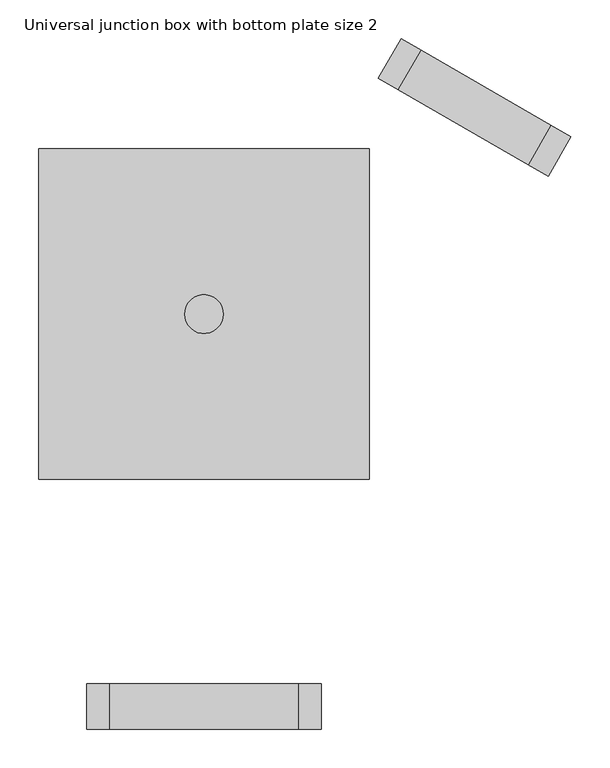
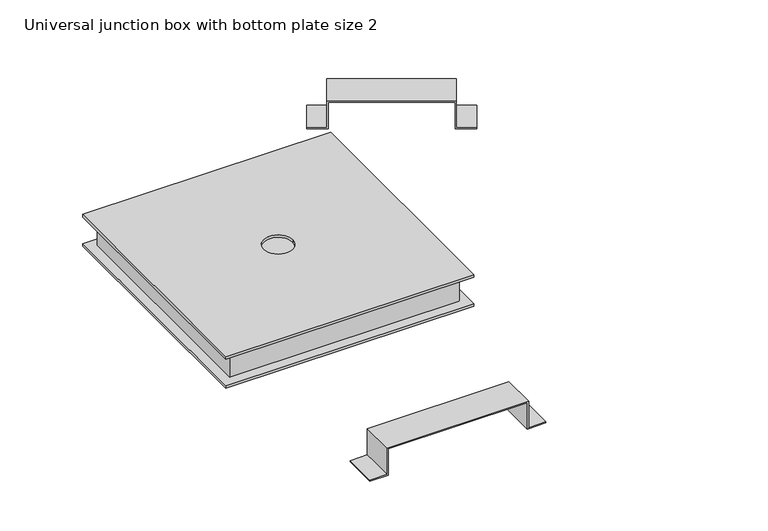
"""IFC4 building model written with IfcOpenShell, lengths in millimetres: cable carrier fitting geometry, Electrical-Installations_Hager_Universal-Junction-Box-With-Bottom-Plate-Size-2-Angled : Universal junction box with bottom plate size 2."""

import ifcopenshell
import ifcopenshell.guid

model = None  # the IFC model being written
_history = None  # IfcOwnerHistory: only IFC2X3 demands one
_inside = {}  # id of a spatial element -> (the spatial element, [elements in it])
_under = {}  # id of a project, library or spatial element -> (it, [spatial elements below it])
_declared = {}  # id of a project -> (the project, [libraries it declares])
_typed = {}  # id of a type object -> (the type object, [elements of that type])
_made_of = {}  # id of a material, layer set ... -> (it, [elements and type objects made of it])


def new_model(schema):
    """Start an empty IFC model of exactly this schema.

    Asked for "IFC4X3", IfcOpenShell would pick the latest addendum, in which some entities
    have other attributes; the version numbers below select the first issue.
    IFC2X3 requires an IfcOwnerHistory on every rooted entity: one is made here for all.
    """
    global model, _history
    if schema == "IFC4X3":
        model = ifcopenshell.file(schema_version=(4, 3, 0, 0))
    else:
        model = ifcopenshell.file(schema=schema)
    _inside.clear()
    _under.clear()
    _declared.clear()
    _typed.clear()
    _made_of.clear()
    _history = None
    if model.schema == "IFC2X3":
        org = make("IfcOrganization", Name="unknown")
        user = make(
            "IfcPersonAndOrganization",
            ThePerson=make("IfcPerson", FamilyName="unknown"),
            TheOrganization=org,
        )
        app = make(
            "IfcApplication",
            ApplicationDeveloper=org,
            Version="unknown",
            ApplicationFullName="unknown",
            ApplicationIdentifier="unknown",
        )
        _history = make(
            "IfcOwnerHistory",
            OwningUser=user,
            OwningApplication=app,
            ChangeAction="ADDED",
            CreationDate=0,
        )
    return model


def make(cls, **values):
    """One entity of the class cls with the attributes given. An attribute that is None is left unset."""
    return model.create_entity(
        cls, **{name: value for name, value in values.items() if value is not None}
    )


def rooted(cls, **values):
    """An entity with a GlobalId (a new one), such as an element, a storey or a relation."""
    return make(cls, GlobalId=ifcopenshell.guid.new(), OwnerHistory=_history, **values)


def si_unit(unit_type, name, prefix=None):
    """IfcSIUnit, for example si_unit("LENGTHUNIT", "METRE", prefix="MILLI")."""
    return make("IfcSIUnit", UnitType=unit_type, Prefix=prefix, Name=name)


def assignment(units):
    """IfcUnitAssignment: the units of a project."""
    return None if units is None else make("IfcUnitAssignment", Units=units)


def point(xyz):
    """IfcCartesianPoint."""
    return None if xyz is None else make("IfcCartesianPoint", Coordinates=xyz)


def direction(xyz):
    """IfcDirection."""
    return None if xyz is None else make("IfcDirection", DirectionRatios=xyz)


def frame(location, z_axis=None, x_axis=None):
    """IfcAxis2Placement3D, a coordinate frame: its origin and axes. An axis left out is left unset."""
    return make(
        "IfcAxis2Placement3D",
        Location=point(location),
        Axis=direction(z_axis),
        RefDirection=direction(x_axis),
    )


def origin():
    """The frame at (0, 0, 0) with its axes left unset."""
    return frame((0.0, 0.0, 0.0))


def place(relative_to, where):
    """IfcLocalPlacement: puts the frame where relative to a parent placement (None: the world)."""
    return make(
        "IfcLocalPlacement", PlacementRelTo=relative_to, RelativePlacement=where
    )


def context(
    kind, dimensions, precision=None, world=None, true_north=None, identifier=None
):
    """IfcGeometricRepresentationContext, for example the 3D "Model" context."""
    return make(
        "IfcGeometricRepresentationContext",
        ContextIdentifier=identifier,
        ContextType=kind,
        CoordinateSpaceDimension=dimensions,
        Precision=precision,
        WorldCoordinateSystem=world,
        TrueNorth=true_north,
    )


def project(units=None, contexts=None):
    """IfcProject with its units and contexts."""
    return rooted(
        "IfcProject",
        Name="project",
        RepresentationContexts=contexts,
        UnitsInContext=assignment(units),
    )


def spatial(cls, under=None, at=None, **own):
    """A site, building, storey or space (cls), placed at a placement, below another one or the project."""
    s = rooted(cls, ObjectPlacement=at, **own)
    if under is not None:
        _under.setdefault(under.id(), (under, []))[1].append(s)
    return s


def polyline(points):
    """IfcPolyline through the points."""
    return make("IfcPolyline", Points=[point(p) for p in points])


def circle_curve(where, radius):
    """IfcCircle in the frame where."""
    return make("IfcCircle", Position=where, Radius=radius)


def outline(outer, holes=None, kind="AREA"):
    """IfcArbitraryClosedProfileDef: a profile drawn as a closed curve; with holes, ...WithVoids."""
    if holes is None:
        return make("IfcArbitraryClosedProfileDef", ProfileType=kind, OuterCurve=outer)
    return make(
        "IfcArbitraryProfileDefWithVoids",
        ProfileType=kind,
        OuterCurve=outer,
        InnerCurves=holes,
    )


def extrude(swept, where, along, depth):
    """IfcExtrudedAreaSolid: the profile swept, set in the frame where, extruded along a direction by depth."""
    return make(
        "IfcExtrudedAreaSolid",
        SweptArea=swept,
        Position=where,
        ExtrudedDirection=direction(along),
        Depth=depth,
    )


def faces_of(points, faces, orient=None, outer=None):
    """IfcFace entities. A face is a list of loops; a loop is a list of indices into points, from 0.

    orient and outer hold one flag for each loop. By default every Orientation is true, the
    first loop of a face is its IfcFaceOuterBound and the others are IfcFaceBound.
    """
    made = []
    for i, loops in enumerate(faces):
        bounds = []
        for j, loop in enumerate(loops):
            is_outer = j == 0 if outer is None else outer[i][j]
            bounds.append(
                make(
                    "IfcFaceOuterBound" if is_outer else "IfcFaceBound",
                    Bound=make("IfcPolyLoop", Polygon=[points[k] for k in loop]),
                    Orientation=True if orient is None else orient[i][j],
                )
            )
        made.append(make("IfcFace", Bounds=bounds))
    return made


def faceted_brep(points, faces, orient=None, outer=None, voids=None):
    """IfcFacetedBrep: a solid bounded by flat faces; with voids (closed shells), ...WithVoids."""
    shared = [point(p) for p in points]
    hull = make("IfcClosedShell", CfsFaces=faces_of(shared, faces, orient, outer))
    if voids is None:
        return make("IfcFacetedBrep", Outer=hull)
    return make(
        "IfcFacetedBrepWithVoids",
        Outer=hull,
        Voids=[
            make(cls, CfsFaces=faces_of(shared, fs, o, b)) for cls, fs, o, b in voids
        ],
    )


def shape(context_of_items, identifier, shape_type, items):
    """IfcShapeRepresentation: the items that make up one representation, for example the "Body"."""
    return make(
        "IfcShapeRepresentation",
        ContextOfItems=context_of_items,
        RepresentationIdentifier=identifier,
        RepresentationType=shape_type,
        Items=items,
    )


def source(mapping_origin, context_of_items, identifier, shape_type, items):
    """IfcRepresentationMap: a shape defined once, which mapped items show again and again."""
    return make(
        "IfcRepresentationMap",
        MappingOrigin=mapping_origin,
        MappedRepresentation=shape(context_of_items, identifier, shape_type, items),
    )


def transform(
    local_origin,
    x_axis=None,
    y_axis=None,
    z_axis=None,
    scale=None,
    scale2=None,
    scale3=None,
    uniform=True,
):
    """IfcCartesianTransformationOperator3D, or its non-uniform kind. x_axis, y_axis, z_axis: its Axis1, 2, 3."""
    if uniform:
        return make(
            "IfcCartesianTransformationOperator3D",
            Axis1=direction(x_axis),
            Axis2=direction(y_axis),
            LocalOrigin=point(local_origin),
            Scale=scale,
            Axis3=direction(z_axis),
        )
    return make(
        "IfcCartesianTransformationOperator3DnonUniform",
        Axis1=direction(x_axis),
        Axis2=direction(y_axis),
        LocalOrigin=point(local_origin),
        Scale=scale,
        Axis3=direction(z_axis),
        Scale2=scale2,
        Scale3=scale3,
    )


def mapped(mapping_source, mapping_target):
    """IfcMappedItem: shows the shape of a source again, moved by a transform."""
    return make(
        "IfcMappedItem", MappingSource=mapping_source, MappingTarget=mapping_target
    )


def made_of(thing, what):
    """Note that an element or type object is made of a material, layer set ...; save() writes the relation."""
    if what is not None:
        _made_of.setdefault(what.id(), (what, []))[1].append(thing)
    return thing


def element(
    cls,
    number,
    at=None,
    inside=None,
    cuts=None,
    type_object=None,
    material=None,
    context=None,
    identifier="Body",
    shape_type=None,
    held_by="IfcProductDefinitionShape",
    body=None,
    shapes=None,
    **own,
):
    """One element of the class cls, such as IfcWall. Its Tag is "e" and its number.

    at: its placement. inside: the storey or other place that contains it. cuts: it is an
    opening in that element (IfcRelVoidsElement). A single representation is given by context,
    identifier, shape_type and body (its items); several are given by shapes. held_by: the class
    of the entity that holds the representations. save() writes the other relations.
    """
    e = rooted(cls, Tag="e%d" % number, ObjectPlacement=at, **own)
    if body is not None:
        shapes = [shape(context, identifier, shape_type, body)]
    if shapes is not None:
        e.Representation = make(held_by, Representations=shapes)
    if inside is not None:
        _inside.setdefault(inside.id(), (inside, []))[1].append(e)
    if cuts is not None:
        rooted(
            "IfcRelVoidsElement", RelatingBuildingElement=cuts, RelatedOpeningElement=e
        )
    if type_object is not None:
        _typed.setdefault(type_object.id(), (type_object, []))[1].append(e)
    return made_of(e, material)


def aggregate(whole, parts):
    """IfcRelAggregates: a whole, such as a stair, and the parts it consists of."""
    return rooted("IfcRelAggregates", RelatingObject=whole, RelatedObjects=parts)


def save(model, path):
    """Write the relations noted so far, then the file.

    IfcRelAggregates (storeys below a building ...), IfcRelContainedInSpatialStructure (elements
    in a storey), IfcRelDefinesByType, IfcRelAssociatesMaterial and IfcRelDeclares: one each for
    every whole, place, type object, material and project.
    """
    for whole, parts in _under.values():
        aggregate(whole, parts)
    for where, things in _inside.values():
        rooted(
            "IfcRelContainedInSpatialStructure",
            RelatedElements=things,
            RelatingStructure=where,
        )
    for kind, things in _typed.values():
        rooted("IfcRelDefinesByType", RelatedObjects=things, RelatingType=kind)
    for what, things in _made_of.values():
        rooted("IfcRelAssociatesMaterial", RelatedObjects=things, RelatingMaterial=what)
    for by, libraries in _declared.values():
        rooted("IfcRelDeclares", RelatingContext=by, RelatedDefinitions=libraries)
    model.write(path)


def plane_surface(at):
    """IfcPlane: the flat surface through the origin of the frame at, square to its z axis."""
    return make("IfcPlane", Position=at)


def revolved_surface(curve, axis_point, axis_direction):
    """IfcSurfaceOfRevolution: the curve turned about the line through axis_point along axis_direction."""
    return make(
        "IfcSurfaceOfRevolution",
        SweptCurve=make("IfcArbitraryOpenProfileDef", ProfileType="CURVE", Curve=curve),
        AxisPosition=make("IfcAxis1Placement", Location=point(axis_point), Axis=direction(axis_direction)),
    )


def advanced_brep(points, edges, surfaces, faces):
    """IfcAdvancedBrep: a solid bounded by faces that lie on surfaces and meet in shared edges.

    An edge is (start, end): straight between two places in points (the first is 0);
    or (start, end, curve); or (start, end, curve, False) where it runs against its curve.
    A face is (place in surfaces, loops), or (place, loops, False) where it looks against
    its surface's normal. A loop lists edges by number (the first is 1), with a minus sign
    where the edge is run from its end to its start. The first loop is the outer one.
    """
    corners = [point(p) for p in points]
    vertices = [make("IfcVertexPoint", VertexGeometry=c) for c in corners]
    made = []
    for start, end, *more in edges:
        made.append(
            make(
                "IfcEdgeCurve",
                EdgeStart=vertices[start],
                EdgeEnd=vertices[end],
                EdgeGeometry=more[0] if more else make("IfcPolyline", Points=[corners[start], corners[end]]),
                SameSense=more[1] if len(more) > 1 else True,
            )
        )
    hull = []
    for where, loops, *sense in faces:
        bounds = []
        for j, loop in enumerate(loops):
            ring = [make("IfcOrientedEdge", EdgeElement=made[abs(k) - 1], Orientation=k > 0) for k in loop]
            bounds.append(
                make(
                    "IfcFaceOuterBound" if j == 0 else "IfcFaceBound",
                    Bound=make("IfcEdgeLoop", EdgeList=ring),
                    Orientation=True,
                )
            )
        hull.append(make("IfcAdvancedFace", Bounds=bounds, FaceSurface=surfaces[where], SameSense=sense[0] if sense else True))
    return make("IfcAdvancedBrep", Outer=make("IfcClosedShell", CfsFaces=hull))


def universal_junction_box_with_bottom_plate_size_2_f06dd73f(model_context):
    return source(origin(), model_context, "Body", "SolidModel", [
        extrude(outline(polyline([(-24.0, -152.0), (-24.0, -120.0), (24.0, -120.0), (24.0, 120.0), (-24.0, 120.0), (-24.0, 152.0), (-22.0, 152.0), (-22.0, 122.0), (26.0, 122.0), (26.0, -122.0), (-22.0, -122.0), (-22.0, -152.0), (-24.0, -152.0)])), frame((0.0, -537.5, 0.0), z_axis=(0.0, 1.0, 0.0), x_axis=(0.0, 0.0, 1.0)), (0.0, 0.0, 1.0), 59.0),
        extrude(outline(polyline([(0.0, 0.0), (0.0, -2.0), (-30.0, -2.0), (-30.0, -50.0), (-224.0, -50.0), (-224.0, -2.0), (-254.0, -2.0), (-254.0, 0.0), (-222.0000001, 0.0), (-222.0000001, -48.0), (-32.0, -48.0), (-32.0, 0.0), (0.0, 0.0)])), frame((445.6038291, 178.5541004, -24.0), z_axis=(0.5000000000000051, 0.8660254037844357, 0.0), x_axis=(0.8660254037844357, -0.5000000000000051, 0.0)), (0.0, 0.0, 1.0), 59.0),
        advanced_brep(
        [(-214.0, -214.0, 29.0), (214.0, -214.0, 29.0), (214.0, 214.0, 29.0), (-214.0, 214.0, 29.0), (-25.0, 0.0, 29.0), (25.0, 0.0, 29.0), (-214.0, -214.0, 24.0), (-214.0, 214.0, 24.0), (214.0, 214.0, 24.0), (214.0, -214.0, 24.0), (192.0, 192.0, 24.0), (-192.0, 192.0, 24.0), (-192.0, -192.0, 24.0), (192.0, -192.0, 24.0), (-25.0, 0.0, 24.7820613), (25.0, 0.0, 24.7820613), (192.0, 192.0, 24.7820613), (192.0, -192.0, 24.7820613), (-192.0, -192.0, 24.7820613), (-192.0, 192.0, 24.7820613)],
        [
            (0, 1),
            (1, 2),
            (2, 3),
            (3, 0),
            (4, 5, circle_curve(frame((0.0, 0.0, 29.0), z_axis=(0.0, 0.0, -1.0), x_axis=(1.0, 0.0, 0.0)), 25.0)),
            (5, 4, circle_curve(frame((0.0, 0.0, 29.0), z_axis=(0.0, 0.0, -1.0), x_axis=(1.0, 0.0, 0.0)), 25.0)),
            (6, 7),
            (7, 8),
            (8, 9),
            (9, 6),
            (10, 11),
            (11, 12),
            (12, 13),
            (13, 10),
            (0, 6),
            (9, 1),
            (8, 2),
            (7, 3),
            (4, 14),
            (14, 15, circle_curve(frame((0.0, 0.0, 24.7820613), z_axis=(0.0, 0.0, -1.0), x_axis=(1.0, 0.0, 0.0)), 25.0)),
            (15, 5),
            (15, 14, circle_curve(frame((0.0, 0.0, 24.7820613), z_axis=(0.0, 0.0, -1.0), x_axis=(1.0, 0.0, 0.0)), 25.0)),
            (16, 17),
            (17, 18),
            (18, 19),
            (19, 16),
            (19, 11),
            (10, 16),
            (18, 12),
            (17, 13),
        ],
        [
            plane_surface(frame((-214.0, -214.0, 29.0), z_axis=(0.0, 0.0, 1.0), x_axis=(1.0, 0.0, 0.0))),
            plane_surface(frame((-214.0, -214.0, 24.0), z_axis=(0.0, 0.0, -1.0), x_axis=(-1.0, 0.0, 0.0))),
            plane_surface(frame((-214.0, -214.0, 29.0), z_axis=(0.0, -1.0, 0.0), x_axis=(0.0, 0.0, -1.0))),
            plane_surface(frame((214.0, -214.0, 29.0), z_axis=(1.0, 0.0, 0.0), x_axis=(0.0, 0.0, -1.0))),
            plane_surface(frame((214.0, 214.0, 29.0), z_axis=(0.0, 1.0, 0.0), x_axis=(0.0, 0.0, -1.0))),
            plane_surface(frame((-214.0, 214.0, 29.0), z_axis=(-1.0, 0.0, 0.0), x_axis=(0.0, 0.0, -1.0))),
            revolved_surface(polyline([(25.0, 0.0, 24.7820613), (25.0, 0.0, 29.0)]), (0.0, 0.0, 0.0), (0.0, 0.0, -1.0)),
            plane_surface(frame((-192.0, 192.0, 24.7820613), z_axis=(0.0, 0.0, -1.0), x_axis=(-1.0, 0.0, 0.0))),
            plane_surface(frame((192.0, 192.0, 24.7820613), z_axis=(0.0, -1.0, 0.0), x_axis=(0.0, 0.0, -1.0))),
            plane_surface(frame((-192.0, 192.0, 24.7820613), z_axis=(1.0, 0.0, 0.0), x_axis=(0.0, 0.0, -1.0))),
            plane_surface(frame((-192.0, -192.0, 24.7820613), z_axis=(0.0, 1.0, 0.0), x_axis=(0.0, 0.0, -1.0))),
            plane_surface(frame((192.0, -192.0, 24.7820613), z_axis=(-1.0, 0.0, 0.0), x_axis=(0.0, 0.0, -1.0))),
        ],
        [
            (0, [[1, 2, 3, 4], [5, 6]]),
            (1, [[7, 8, 9, 10], [11, 12, 13, 14]]),
            (2, [[-1, 15, -10, 16]]),
            (3, [[-2, -16, -9, 17]]),
            (4, [[-3, -17, -8, 18]]),
            (5, [[-4, -18, -7, -15]]),
            (6, [[-5, 19, 20, 21]]),
            (6, [[-6, -21, 22, -19]]),
            (7, [[23, 24, 25, 26], [-20, -22]]),
            (8, [[-26, 27, -11, 28]]),
            (9, [[-25, 29, -12, -27]]),
            (10, [[-24, 30, -13, -29]]),
            (11, [[-23, -28, -14, -30]]),
        ],
    ),
        extrude(outline(polyline([(214.0, 214.0), (214.0, -214.0), (-214.0, -214.0), (-214.0, 214.0), (214.0, 214.0)])), frame((0.0, 0.0, -29.0), z_axis=(0.0, 0.0, 1.0), x_axis=(1.0, 0.0, 0.0)), (0.0, 0.0, 1.0), 5.0),
        faceted_brep([(-198.0, 198.0, 24.0), (-198.0, -198.0, 24.0), (198.0, -198.0, 24.0), (198.0, 198.0, 24.0), (-192.0, 192.0, 24.0), (192.0, 192.0, 24.0), (192.0, -192.0, 24.0), (-192.0, -192.0, 24.0), (-198.0, 198.0, -24.0), (198.0, 198.0, -24.0), (198.0, -198.0, -24.0), (-198.0, -198.0, -24.0), (192.0, 192.0, -16.1362798), (-192.0, 192.0, -16.1362798), (-192.0, -192.0, -16.1362798), (192.0, -192.0, -16.1362798)], [[[0, 1, 2, 3], [4, 5, 6, 7]], [[8, 9, 10, 11]], [[1, 0, 8, 11]], [[2, 1, 11, 10]], [[3, 2, 10, 9]], [[0, 3, 9, 8]], [[12, 13, 14, 15]], [[13, 12, 5, 4]], [[14, 13, 4, 7]], [[15, 14, 7, 6]], [[12, 15, 6, 5]]]),
    ])


if __name__ == "__main__":
    model = new_model("IFC4")
    model_context = context("Model", 3, world=origin())
    ifc_project = project(units=[si_unit("LENGTHUNIT", "METRE", prefix="MILLI")], contexts=[model_context])
    site = spatial("IfcSite", under=ifc_project)
    building = spatial("IfcBuilding", under=site)
    placement = place(None, origin())
    universal_junction_box_with_bottom_plate_size_2_shape = universal_junction_box_with_bottom_plate_size_2_f06dd73f(model_context)
    element("IfcCableCarrierFitting", 1, ObjectType="Electrical-Installations_Hager_Universal-Junction-Box-With-Bottom-Plate-Size-2-Angled : Universal junction box with bottom plate size 2", at=placement, inside=building, context=model_context, shape_type="MappedRepresentation", body=[
        mapped(universal_junction_box_with_bottom_plate_size_2_shape, transform((0.0, 0.0, 0.0), x_axis=(1.0, 0.0, 0.0), y_axis=(0.0, 1.0, 0.0), z_axis=(0.0, 0.0, 1.0))),
    ])
    save(model, "model.ifc")
